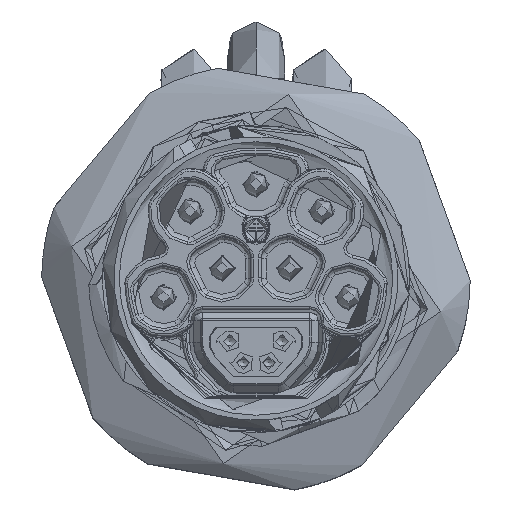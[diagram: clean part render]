
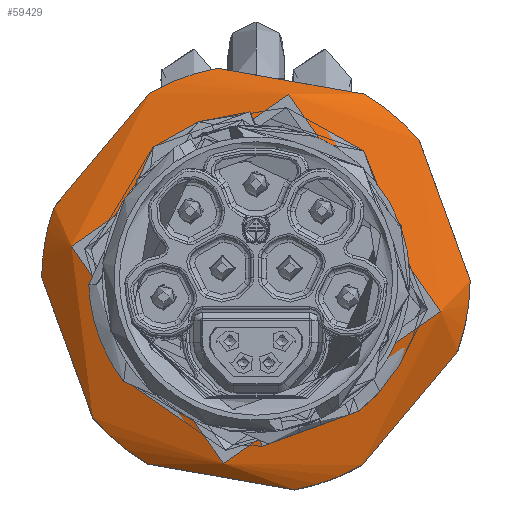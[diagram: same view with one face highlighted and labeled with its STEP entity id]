
A CAD part, top view. The second image highlights one B-rep face of the part: STEP entity #59429.
In plain terms, the highlighted conical face has half-angle 45 degrees and reference radius 15 mm.
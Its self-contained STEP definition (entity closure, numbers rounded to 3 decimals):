
#33=(
BOUNDED_CURVE()
B_SPLINE_CURVE(2,(#97211,#97212,#97213),.UNSPECIFIED.,.F.,.F.)
B_SPLINE_CURVE_WITH_KNOTS((3,3),(0.,1.131),.UNSPECIFIED.)
CURVE()
GEOMETRIC_REPRESENTATION_ITEM()
RATIONAL_B_SPLINE_CURVE((1.,1.067,1.))
REPRESENTATION_ITEM('')
);
#34=(
BOUNDED_CURVE()
B_SPLINE_CURVE(2,(#97251,#97252,#97253),.UNSPECIFIED.,.F.,.F.)
B_SPLINE_CURVE_WITH_KNOTS((3,3),(0.,1.131),.UNSPECIFIED.)
CURVE()
GEOMETRIC_REPRESENTATION_ITEM()
RATIONAL_B_SPLINE_CURVE((1.,1.067,1.))
REPRESENTATION_ITEM('')
);
#35=(
BOUNDED_CURVE()
B_SPLINE_CURVE(2,(#97289,#97290,#97291),.UNSPECIFIED.,.F.,.F.)
B_SPLINE_CURVE_WITH_KNOTS((3,3),(0.,1.131),.UNSPECIFIED.)
CURVE()
GEOMETRIC_REPRESENTATION_ITEM()
RATIONAL_B_SPLINE_CURVE((1.,1.067,1.))
REPRESENTATION_ITEM('')
);
#36=(
BOUNDED_CURVE()
B_SPLINE_CURVE(2,(#97449,#97450,#97451),.UNSPECIFIED.,.F.,.F.)
B_SPLINE_CURVE_WITH_KNOTS((3,3),(0.,1.131),.UNSPECIFIED.)
CURVE()
GEOMETRIC_REPRESENTATION_ITEM()
RATIONAL_B_SPLINE_CURVE((1.,1.067,1.))
REPRESENTATION_ITEM('')
);
#37=(
BOUNDED_CURVE()
B_SPLINE_CURVE(2,(#97461,#97462,#97463),.UNSPECIFIED.,.F.,.F.)
B_SPLINE_CURVE_WITH_KNOTS((3,3),(0.,1.131),.UNSPECIFIED.)
CURVE()
GEOMETRIC_REPRESENTATION_ITEM()
RATIONAL_B_SPLINE_CURVE((1.,1.067,1.))
REPRESENTATION_ITEM('')
);
#38=(
BOUNDED_CURVE()
B_SPLINE_CURVE(2,(#97464,#97465,#97466),.UNSPECIFIED.,.F.,.F.)
B_SPLINE_CURVE_WITH_KNOTS((3,3),(0.,1.131),.UNSPECIFIED.)
CURVE()
GEOMETRIC_REPRESENTATION_ITEM()
RATIONAL_B_SPLINE_CURVE((1.,1.067,1.))
REPRESENTATION_ITEM('')
);
#130=CONICAL_SURFACE('',#63987,15.,0.785);
#7661=FACE_OUTER_BOUND('',#10928,.T.);
#10928=EDGE_LOOP('',(#45858,#45859,#45860,#45861,#45862,#45863,#45864,#45865,
#45866,#45867,#45868,#45869,#45870,#45871,#45872,#45873));
#14196=LINE('',#97467,#19309);
#19309=VECTOR('',#72802,15.);
#24963=CIRCLE('',#63913,14.);
#24996=CIRCLE('',#63976,16.);
#24997=CIRCLE('',#63978,16.);
#24998=CIRCLE('',#63980,16.);
#24999=CIRCLE('',#63981,16.);
#25000=CIRCLE('',#63983,16.);
#25001=CIRCLE('',#63986,16.);
#25002=CIRCLE('',#63988,16.);
#27678=VERTEX_POINT('',#97112);
#27702=VERTEX_POINT('',#97208);
#27703=VERTEX_POINT('',#97210);
#27710=VERTEX_POINT('',#97248);
#27711=VERTEX_POINT('',#97250);
#27718=VERTEX_POINT('',#97286);
#27719=VERTEX_POINT('',#97288);
#27740=VERTEX_POINT('',#97437);
#27741=VERTEX_POINT('',#97439);
#27742=VERTEX_POINT('',#97443);
#27743=VERTEX_POINT('',#97445);
#27744=VERTEX_POINT('',#97453);
#27745=VERTEX_POINT('',#97455);
#27746=VERTEX_POINT('',#97459);
#34267=EDGE_CURVE('',#27678,#27678,#24963,.T.);
#34299=EDGE_CURVE('',#27702,#27703,#33,.T.);
#34309=EDGE_CURVE('',#27710,#27711,#34,.T.);
#34318=EDGE_CURVE('',#27718,#27719,#35,.T.);
#34358=EDGE_CURVE('',#27711,#27718,#24996,.T.);
#34359=EDGE_CURVE('',#27719,#27702,#24997,.T.);
#34360=EDGE_CURVE('',#27703,#27740,#24998,.T.);
#34361=EDGE_CURVE('',#27740,#27741,#24999,.T.);
#34364=EDGE_CURVE('',#27742,#27743,#25000,.T.);
#34366=EDGE_CURVE('',#27741,#27742,#36,.T.);
#34368=EDGE_CURVE('',#27744,#27745,#25001,.T.);
#34370=EDGE_CURVE('',#27746,#27710,#25002,.T.);
#34371=EDGE_CURVE('',#27745,#27746,#37,.T.);
#34372=EDGE_CURVE('',#27743,#27744,#38,.T.);
#34373=EDGE_CURVE('',#27740,#27678,#14196,.T.);
#45858=ORIENTED_EDGE('',*,*,#34309,.F.);
#45859=ORIENTED_EDGE('',*,*,#34370,.F.);
#45860=ORIENTED_EDGE('',*,*,#34371,.F.);
#45861=ORIENTED_EDGE('',*,*,#34368,.F.);
#45862=ORIENTED_EDGE('',*,*,#34372,.F.);
#45863=ORIENTED_EDGE('',*,*,#34364,.F.);
#45864=ORIENTED_EDGE('',*,*,#34366,.F.);
#45865=ORIENTED_EDGE('',*,*,#34361,.F.);
#45866=ORIENTED_EDGE('',*,*,#34373,.T.);
#45867=ORIENTED_EDGE('',*,*,#34267,.F.);
#45868=ORIENTED_EDGE('',*,*,#34373,.F.);
#45869=ORIENTED_EDGE('',*,*,#34360,.F.);
#45870=ORIENTED_EDGE('',*,*,#34299,.F.);
#45871=ORIENTED_EDGE('',*,*,#34359,.F.);
#45872=ORIENTED_EDGE('',*,*,#34318,.F.);
#45873=ORIENTED_EDGE('',*,*,#34358,.F.);
#59429=ADVANCED_FACE('',(#7661),#130,.T.);
#63913=AXIS2_PLACEMENT_3D('',#97113,#72614,#72615);
#63976=AXIS2_PLACEMENT_3D('',#97433,#72771,#72772);
#63978=AXIS2_PLACEMENT_3D('',#97435,#72775,#72776);
#63980=AXIS2_PLACEMENT_3D('',#97438,#72779,#72780);
#63981=AXIS2_PLACEMENT_3D('',#97440,#72781,#72782);
#63983=AXIS2_PLACEMENT_3D('',#97446,#72787,#72788);
#63986=AXIS2_PLACEMENT_3D('',#97456,#72795,#72796);
#63987=AXIS2_PLACEMENT_3D('',#97458,#72798,#72799);
#63988=AXIS2_PLACEMENT_3D('',#97460,#72800,#72801);
#72614=DIRECTION('center_axis',(0.,0.,
1.));
#72615=DIRECTION('ref_axis',(0.985,-0.174,0.));
#72771=DIRECTION('center_axis',(0.,0.,
-1.));
#72772=DIRECTION('ref_axis',(-0.174,-0.985,0.));
#72775=DIRECTION('center_axis',(0.,0.,
-1.));
#72776=DIRECTION('ref_axis',(-0.174,-0.985,0.));
#72779=DIRECTION('center_axis',(0.,0.,
-1.));
#72780=DIRECTION('ref_axis',(-0.174,-0.985,0.));
#72781=DIRECTION('center_axis',(0.,0.,
-1.));
#72782=DIRECTION('ref_axis',(-0.174,-0.985,0.));
#72787=DIRECTION('center_axis',(0.,0.,
-1.));
#72788=DIRECTION('ref_axis',(-0.174,-0.985,0.));
#72795=DIRECTION('center_axis',(0.,0.,
-1.));
#72796=DIRECTION('ref_axis',(-0.174,-0.985,0.));
#72798=DIRECTION('center_axis',(0.,0.,
-1.));
#72799=DIRECTION('ref_axis',(0.985,-0.174,0.));
#72800=DIRECTION('center_axis',(0.,0.,
-1.));
#72801=DIRECTION('ref_axis',(-0.174,-0.985,0.));
#72802=DIRECTION('',(0.696,-0.123,0.707));
#97112=CARTESIAN_POINT('',(-13.787,2.431,17.7));
#97113=CARTESIAN_POINT('Origin',(0.,0.,
17.7));
#97208=CARTESIAN_POINT('',(-12.191,-10.362,15.7));
#97210=CARTESIAN_POINT('',(-16.,0.102,15.7));
#97211=CARTESIAN_POINT('Ctrl Pts',(-12.191,-10.362,15.7));
#97212=CARTESIAN_POINT('Ctrl Pts',(-14.095,-5.13,
17.637));
#97213=CARTESIAN_POINT('Ctrl Pts',(-16.,0.102,
15.7));
#97248=CARTESIAN_POINT('',(15.07,-5.377,15.7));
#97250=CARTESIAN_POINT('',(7.912,-13.907,15.7));
#97251=CARTESIAN_POINT('Ctrl Pts',(15.07,-5.377,15.7));
#97252=CARTESIAN_POINT('Ctrl Pts',(11.491,-9.642,17.637));
#97253=CARTESIAN_POINT('Ctrl Pts',(7.912,-13.907,15.7));
#97286=CARTESIAN_POINT('',(2.878,-15.739,15.7));
#97288=CARTESIAN_POINT('',(-8.088,-13.805,15.7));
#97289=CARTESIAN_POINT('Ctrl Pts',(2.878,-15.739,15.7));
#97290=CARTESIAN_POINT('Ctrl Pts',(-2.605,-14.772,
17.637));
#97291=CARTESIAN_POINT('Ctrl Pts',(-8.088,-13.805,15.7));
#97433=CARTESIAN_POINT('Origin',(0.,0.,
15.7));
#97435=CARTESIAN_POINT('Origin',(0.,0.,
15.7));
#97437=CARTESIAN_POINT('',(-15.757,2.778,15.7));
#97438=CARTESIAN_POINT('Origin',(0.,0.,
15.7));
#97439=CARTESIAN_POINT('',(-15.07,5.377,15.7));
#97440=CARTESIAN_POINT('Origin',(0.,0.,
15.7));
#97443=CARTESIAN_POINT('',(-7.912,13.907,15.7));
#97445=CARTESIAN_POINT('',(-2.878,15.739,15.7));
#97446=CARTESIAN_POINT('Origin',(0.,0.,
15.7));
#97449=CARTESIAN_POINT('Ctrl Pts',(-15.07,5.377,15.7));
#97450=CARTESIAN_POINT('Ctrl Pts',(-11.491,9.642,17.637));
#97451=CARTESIAN_POINT('Ctrl Pts',(-7.912,13.907,15.7));
#97453=CARTESIAN_POINT('',(8.088,13.805,15.7));
#97455=CARTESIAN_POINT('',(12.191,10.362,15.7));
#97456=CARTESIAN_POINT('Origin',(0.,0.,
15.7));
#97458=CARTESIAN_POINT('Origin',(0.,0.,
16.7));
#97459=CARTESIAN_POINT('',(16.,-0.102,15.7));
#97460=CARTESIAN_POINT('Origin',(0.,0.,
15.7));
#97461=CARTESIAN_POINT('Ctrl Pts',(12.191,10.362,15.7));
#97462=CARTESIAN_POINT('Ctrl Pts',(14.095,5.13,17.637));
#97463=CARTESIAN_POINT('Ctrl Pts',(16.,-0.102,
15.7));
#97464=CARTESIAN_POINT('Ctrl Pts',(-2.878,15.739,15.7));
#97465=CARTESIAN_POINT('Ctrl Pts',(2.605,14.772,17.637));
#97466=CARTESIAN_POINT('Ctrl Pts',(8.088,13.805,15.7));
#97467=CARTESIAN_POINT('',(-14.772,2.605,16.7));
